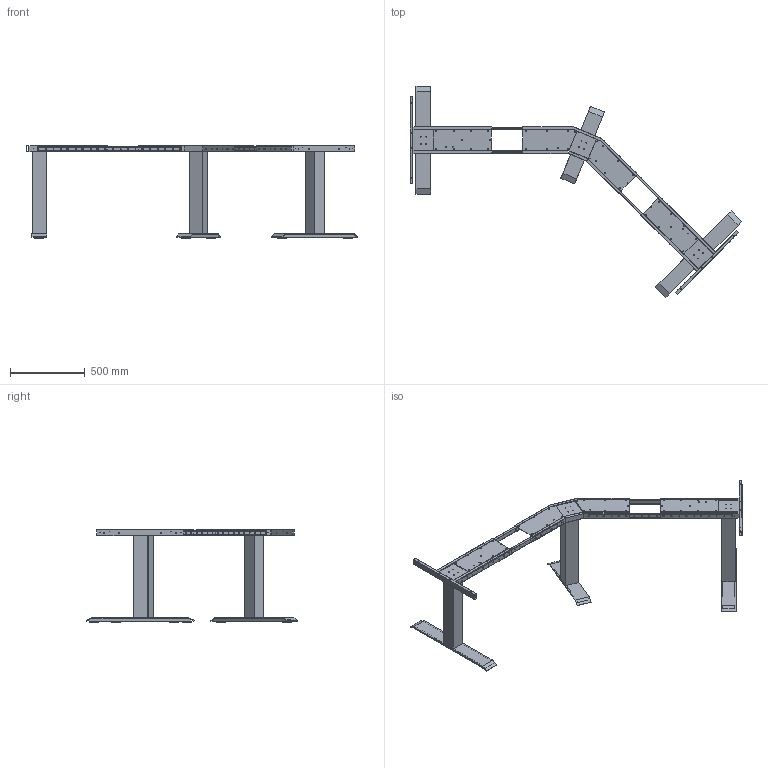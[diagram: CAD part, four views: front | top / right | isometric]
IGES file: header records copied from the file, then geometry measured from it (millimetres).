
Start section: Data from Parasolid IGES Translator 15.0.47, Copyright(c) 2006 Siemens P LM Software. All Rights Reserved.
Global section: file name: 9193257.igs; native system:  By UGS Corp.; preprocessor: XPlus GENERIC/IGES 3.0; author: Noname; organization: Noname; date: 20160706.173142; units: millimetre
Bounding box: 2216.34 x 1410.63 x 620.5 mm (x, y, z)
Surface area: 3441645.2 mm2 (no closed solid volume)
Topology: 0 solids, 0 shells, 540 faces, 2948 edges, 2509 vertices
Faces by surface type: extrusion 297, revolution 243
